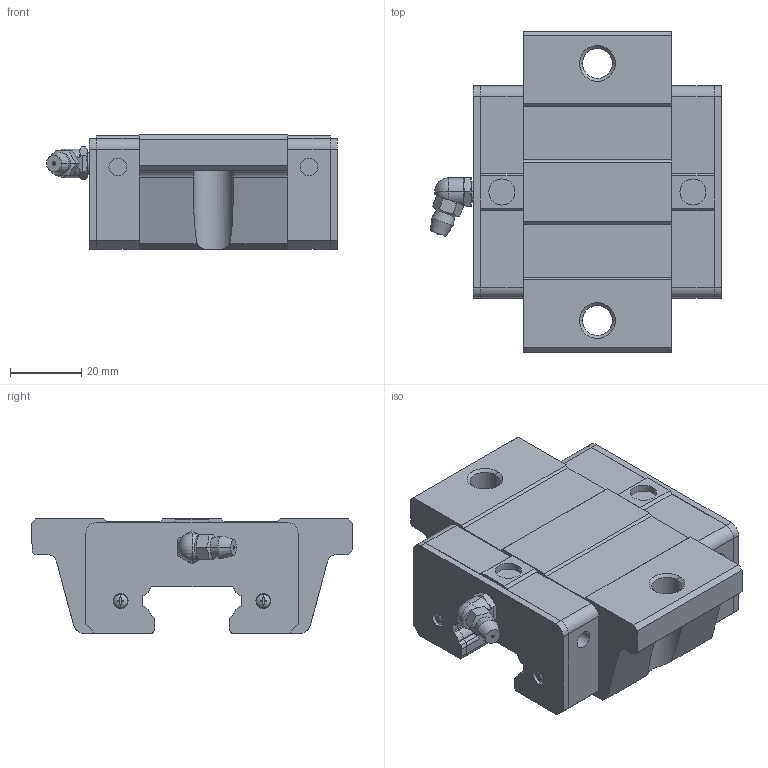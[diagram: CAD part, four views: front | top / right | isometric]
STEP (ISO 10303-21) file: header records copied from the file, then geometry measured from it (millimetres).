
FILE_DESCRIPTION(('starvars output'),'2;1');
FILE_NAME('cv20190610054621000020131.stp','05:46:22 2019/06/10',( 'Thomas Industrial Network Germany GmbH'),( 'Thomas Industrial Network Germany GmbH'),'unknown preprocess','ACIS' ,'unknown authorization');
FILE_SCHEMA(('CONFIG_CONTROL_DESIGN {UNKNOWN IMPLEMENTATION LEVEL}'));
Length unit declared in the file: millimetre
Products named in the file (11): PRODUCT_ID_1; PRODUCT_ID_2; PRODUCT_ID_3; PRODUCT_ID_4; PRODUCT_ID_5; PRODUCT_ID_6; PRODUCT_ID_7; PRODUCT_ID_8; PRODUCT_ID_9; PRODUCT_ID_10; PRODUCT_ID_11
Bounding box: 81.5 x 90 x 32 mm (x, y, z)
Volume: 128285.5 mm3; surface area: 35770.7 mm2
Topology: 11 solids, 11 shells, 419 faces, 1104 edges, 712 vertices
Faces by surface type: plane 221, cylinder 134, cone 52, sphere 12
Entity records: 12757 total; most frequent: ORIENTED_EDGE 2200, CARTESIAN_POINT 2090, DIRECTION 1865, EDGE_CURVE 1100, VERTEX_POINT 712, AXIS2_PLACEMENT_3D 629, VECTOR 607, LINE 607
